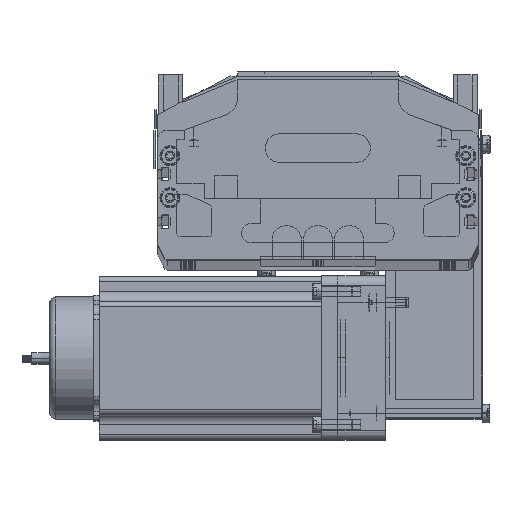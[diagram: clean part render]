
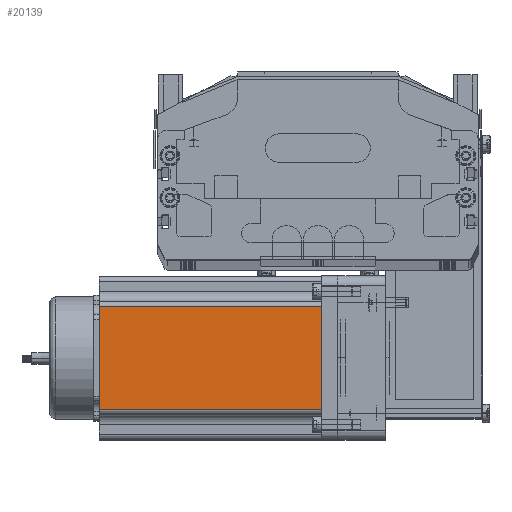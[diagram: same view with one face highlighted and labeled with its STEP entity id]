
A CAD part, top view. The second image highlights one B-rep face of the part: STEP entity #20139.
In plain terms, the highlighted planar face has unit normal (0, 0, 1) as drawn and (0, -1, 0) by its records, which use the part's own axes.
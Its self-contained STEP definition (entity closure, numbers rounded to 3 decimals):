
#20132 = ORIENTED_EDGE ( 'NONE', *, *, #20189, .T. ) ;
#20135 = EDGE_LOOP ( 'NONE', ( #20132, #20143, #20146, #20145 ) ) ;
#20139 = ADVANCED_FACE ( 'NONE', ( #37528 ), #37223, .F. ) ;
#20140 = VERTEX_POINT ( 'NONE', #37515 ) ;
#20141 = EDGE_CURVE ( 'NONE', #20218, #20142, #37483, .T. ) ;
#20142 = VERTEX_POINT ( 'NONE', #37495 ) ;
#20143 = ORIENTED_EDGE ( 'NONE', *, *, #20141, .T. ) ;
#20144 = EDGE_CURVE ( 'NONE', #20140, #20142, #37470, .T. ) ;
#20145 = ORIENTED_EDGE ( 'NONE', *, *, #20165, .T. ) ;
#20146 = ORIENTED_EDGE ( 'NONE', *, *, #20144, .F. ) ;
#20165 = EDGE_CURVE ( 'NONE', #20140, #20217, #37193, .T. ) ;
#20189 = EDGE_CURVE ( 'NONE', #20217, #20218, #37407, .T. ) ;
#20217 = VERTEX_POINT ( 'NONE', #37352 ) ;
#20218 = VERTEX_POINT ( 'NONE', #37419 ) ;
#37177 = DIRECTION ( 'NONE',  ( 1., 0., 0. ) ) ;
#37178 = CARTESIAN_POINT ( 'NONE',  ( 0., 0., 0. ) ) ;
#37190 = DIRECTION ( 'NONE',  ( 0., 0., -1. ) ) ;
#37191 = VECTOR ( 'NONE', #37190, 1000. ) ;
#37192 = CARTESIAN_POINT ( 'NONE',  ( 16.16, 0., 116.5 ) ) ;
#37193 = LINE ( 'NONE', #37192, #37191 ) ;
#37223 = PLANE ( 'NONE',  #37518 ) ;
#37238 = DIRECTION ( 'NONE',  ( 0., 1., 0. ) ) ;
#37352 = CARTESIAN_POINT ( 'NONE',  ( 16.16, 0., 0. ) ) ;
#37383 = VECTOR ( 'NONE', #37177, 1000. ) ;
#37407 = LINE ( 'NONE', #37178, #37383 ) ;
#37419 = CARTESIAN_POINT ( 'NONE',  ( 69.74, 0., 0. ) ) ;
#37466 = DIRECTION ( 'NONE',  ( 1., 0., 0. ) ) ;
#37468 = VECTOR ( 'NONE', #37466, 1000. ) ;
#37469 = CARTESIAN_POINT ( 'NONE',  ( 0., 0., 116.5 ) ) ;
#37470 = LINE ( 'NONE', #37469, #37468 ) ;
#37479 = DIRECTION ( 'NONE',  ( 0., 0., 1. ) ) ;
#37480 = VECTOR ( 'NONE', #37479, 1000. ) ;
#37481 = CARTESIAN_POINT ( 'NONE',  ( 69.74, 0., 116.5 ) ) ;
#37483 = LINE ( 'NONE', #37481, #37480 ) ;
#37495 = CARTESIAN_POINT ( 'NONE',  ( 69.74, 0., 116.5 ) ) ;
#37501 = DIRECTION ( 'NONE',  ( 0., 0., 1. ) ) ;
#37515 = CARTESIAN_POINT ( 'NONE',  ( 16.16, 0., 116.5 ) ) ;
#37518 = AXIS2_PLACEMENT_3D ( 'NONE', #37526, #37238, #37501 ) ;
#37526 = CARTESIAN_POINT ( 'NONE',  ( 0., 0., 116.5 ) ) ;
#37528 = FACE_OUTER_BOUND ( 'NONE', #20135, .T. ) ;
